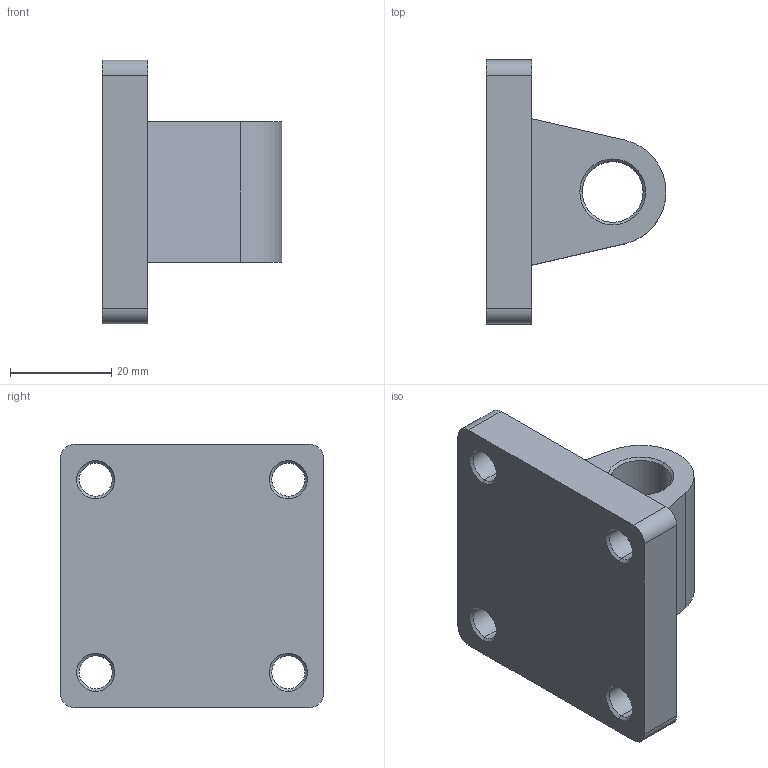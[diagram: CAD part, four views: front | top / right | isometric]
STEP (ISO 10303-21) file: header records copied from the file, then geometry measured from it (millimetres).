
FILE_DESCRIPTION (( 'STEP AP214' ), '1' );
FILE_NAME ('F-SI40CA.STEP', '2016-02-16T15:57:54', ( '' ), ( '' ), 'SwSTEP 2.0', 'SolidWorks 2016', '' );
FILE_SCHEMA (( 'AUTOMOTIVE_DESIGN' ));
Length unit declared in the file: millimetre
Products named in the file (1): F-SI40CA
Bounding box: 35.5 x 52 x 52 mm (x, y, z)
Volume: 35709.8 mm3; surface area: 10692.4 mm2
Topology: 1 solids, 1 shells, 65 faces, 146 edges, 88 vertices
Faces by surface type: cone 28, cylinder 23, plane 14
Entity records: 1864 total; most frequent: DIRECTION 352, CARTESIAN_POINT 300, ORIENTED_EDGE 292, EDGE_CURVE 146, AXIS2_PLACEMENT_3D 140, VERTEX_POINT 88, EDGE_LOOP 80, CIRCLE 74
